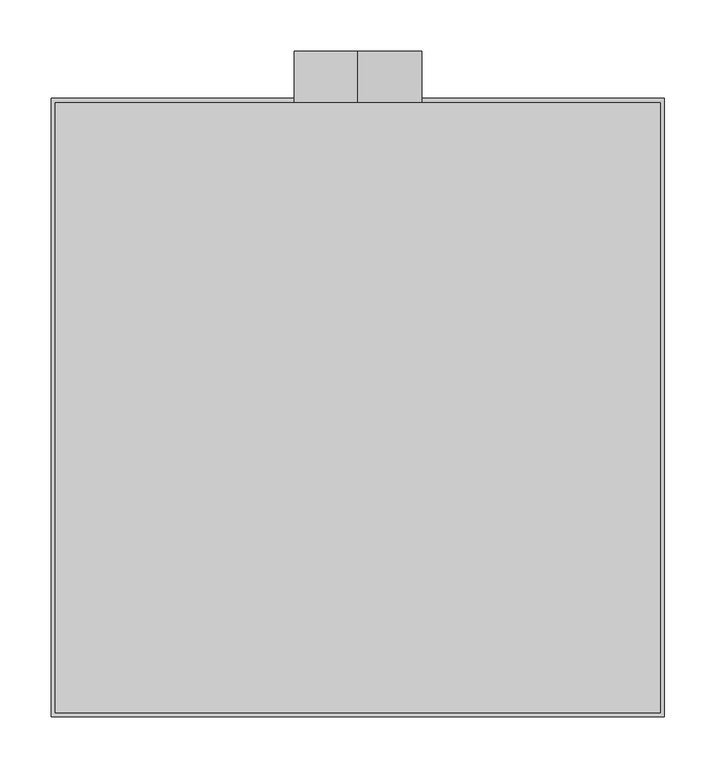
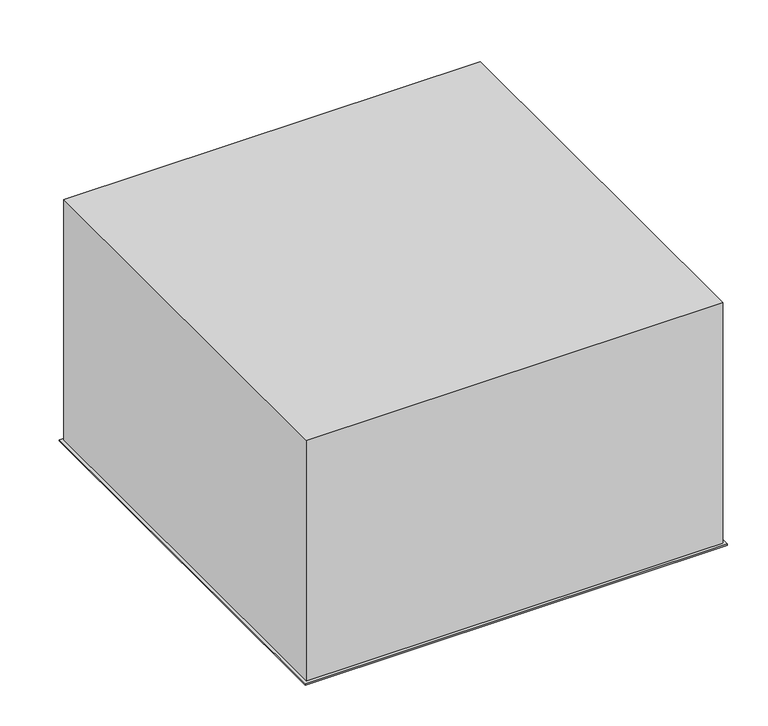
"""IFC4 building model written with IfcOpenShell, lengths in millimetres: air terminal geometry, EOL - plafonnier : EOL-P1-125-600x600."""

from ifc_helpers import new_model, si_unit, point, frame, frame_2d, origin, place, context, project, spatial, polyline, circle_curve, trimmed, segment, composite_curve, outline, extrude, source, transform, mapped, element, save
from ifc_brep_helpers import plane_surface, revolved_surface, advanced_brep


def air_terminal_0c244e15(model_context):
    return source(origin(), model_context, "Body", "SolidModel", [
        extrude(outline(composite_curve([segment(polyline([(546.8125856, 1.0), (546.8125856, 2.0025269)]), True, "CONTINUOUS"), segment(trimmed(circle_curve(frame_2d((544.7125856, 31.0266548)), 29.1), [point((546.8125856, 2.0025269))], [point((573.5, 26.77286))], True, "CARTESIAN"), True, "CONTINUOUS"), segment(polyline([(573.5, 26.77286), (573.5, 35.0), (574.5, 35.0), (574.5, 26.7)]), True, "CONTINUOUS"), segment(trimmed(circle_curve(frame_2d((544.7125856, 31.0266548)), 30.1), [point((574.5, 26.7))], [point((546.8125856, 1.0))], False, "CARTESIAN"), True, "CONTINUOUS")], self_intersect=False)), frame((-286.3125856, 0.0, 0.0), z_axis=(1.0, 0.0, 0.0), x_axis=(0.0, 1.0, 0.0)), (0.0, 0.0, 1.0), 572.6251712),
        extrude(outline(composite_curve([segment(polyline([(519.8125856, 1.0), (519.8125856, 2.0025269)]), True, "CONTINUOUS"), segment(trimmed(circle_curve(frame_2d((517.7125856, 31.0266548)), 29.1), [point((519.8125856, 2.0025269))], [point((546.5, 26.77286))], True, "CARTESIAN"), True, "CONTINUOUS"), segment(polyline([(546.5, 26.77286), (546.5, 35.0), (547.5, 35.0), (547.5, 26.7)]), True, "CONTINUOUS"), segment(trimmed(circle_curve(frame_2d((517.7125856, 31.0266548)), 30.1), [point((547.5, 26.7))], [point((519.8125856, 1.0))], False, "CARTESIAN"), True, "CONTINUOUS")], self_intersect=False)), frame((-286.3125856, 0.0, 0.0), z_axis=(1.0, 0.0, 0.0), x_axis=(0.0, 1.0, 0.0)), (0.0, 0.0, 1.0), 572.6251712),
        extrude(outline(composite_curve([segment(polyline([(492.8125856, 1.0), (492.8125856, 2.0025269)]), True, "CONTINUOUS"), segment(trimmed(circle_curve(frame_2d((490.7125856, 31.0266548)), 29.1), [point((492.8125856, 2.0025269))], [point((519.5, 26.77286))], True, "CARTESIAN"), True, "CONTINUOUS"), segment(polyline([(519.5, 26.77286), (519.5, 35.0), (520.5, 35.0), (520.5, 26.7)]), True, "CONTINUOUS"), segment(trimmed(circle_curve(frame_2d((490.7125856, 31.0266548)), 30.1), [point((520.5, 26.7))], [point((492.8125856, 1.0))], False, "CARTESIAN"), True, "CONTINUOUS")], self_intersect=False)), frame((-286.3125856, 0.0, 0.0), z_axis=(1.0, 0.0, 0.0), x_axis=(0.0, 1.0, 0.0)), (0.0, 0.0, 1.0), 572.6251712),
        extrude(outline(composite_curve([segment(polyline([(465.8125856, 1.0), (465.8125856, 2.0025269)]), True, "CONTINUOUS"), segment(trimmed(circle_curve(frame_2d((463.7125856, 31.0266548)), 29.1), [point((465.8125856, 2.0025269))], [point((492.5, 26.77286))], True, "CARTESIAN"), True, "CONTINUOUS"), segment(polyline([(492.5, 26.77286), (492.5, 35.0), (493.5, 35.0), (493.5, 26.7)]), True, "CONTINUOUS"), segment(trimmed(circle_curve(frame_2d((463.7125856, 31.0266548)), 30.1), [point((493.5, 26.7))], [point((465.8125856, 1.0))], False, "CARTESIAN"), True, "CONTINUOUS")], self_intersect=False)), frame((-286.3125856, 0.0, 0.0), z_axis=(1.0, 0.0, 0.0), x_axis=(0.0, 1.0, 0.0)), (0.0, 0.0, 1.0), 572.6251712),
        extrude(outline(composite_curve([segment(polyline([(438.8125856, 1.0), (438.8125856, 2.0025269)]), True, "CONTINUOUS"), segment(trimmed(circle_curve(frame_2d((436.7125856, 31.0266548)), 29.1), [point((438.8125856, 2.0025269))], [point((465.5, 26.77286))], True, "CARTESIAN"), True, "CONTINUOUS"), segment(polyline([(465.5, 26.77286), (465.5, 35.0), (466.5, 35.0), (466.5, 26.7)]), True, "CONTINUOUS"), segment(trimmed(circle_curve(frame_2d((436.7125856, 31.0266548)), 30.1), [point((466.5, 26.7))], [point((438.8125856, 1.0))], False, "CARTESIAN"), True, "CONTINUOUS")], self_intersect=False)), frame((-286.3125856, 0.0, 0.0), z_axis=(1.0, 0.0, 0.0), x_axis=(0.0, 1.0, 0.0)), (0.0, 0.0, 1.0), 572.6251712),
        extrude(outline(composite_curve([segment(polyline([(411.8125856, 1.0), (411.8125856, 2.0025269)]), True, "CONTINUOUS"), segment(trimmed(circle_curve(frame_2d((409.7125856, 31.0266548)), 29.1), [point((411.8125856, 2.0025269))], [point((438.5, 26.77286))], True, "CARTESIAN"), True, "CONTINUOUS"), segment(polyline([(438.5, 26.77286), (438.5, 35.0), (439.5, 35.0), (439.5, 26.7)]), True, "CONTINUOUS"), segment(trimmed(circle_curve(frame_2d((409.7125856, 31.0266548)), 30.1), [point((439.5, 26.7))], [point((411.8125856, 1.0))], False, "CARTESIAN"), True, "CONTINUOUS")], self_intersect=False)), frame((-286.3125856, 0.0, 0.0), z_axis=(1.0, 0.0, 0.0), x_axis=(0.0, 1.0, 0.0)), (0.0, 0.0, 1.0), 572.6251712),
        extrude(outline(composite_curve([segment(polyline([(384.8125856, 1.0), (384.8125856, 2.0025269)]), True, "CONTINUOUS"), segment(trimmed(circle_curve(frame_2d((382.7125856, 31.0266548)), 29.1), [point((384.8125856, 2.0025269))], [point((411.5, 26.77286))], True, "CARTESIAN"), True, "CONTINUOUS"), segment(polyline([(411.5, 26.77286), (411.5, 35.0), (412.5, 35.0), (412.5, 26.7)]), True, "CONTINUOUS"), segment(trimmed(circle_curve(frame_2d((382.7125856, 31.0266548)), 30.1), [point((412.5, 26.7))], [point((384.8125856, 1.0))], False, "CARTESIAN"), True, "CONTINUOUS")], self_intersect=False)), frame((-286.3125856, 0.0, 0.0), z_axis=(1.0, 0.0, 0.0), x_axis=(0.0, 1.0, 0.0)), (0.0, 0.0, 1.0), 572.6251712),
        extrude(outline(composite_curve([segment(polyline([(357.8125856, 1.0), (357.8125856, 2.0025269)]), True, "CONTINUOUS"), segment(trimmed(circle_curve(frame_2d((355.7125856, 31.0266548)), 29.1), [point((357.8125856, 2.0025269))], [point((384.5, 26.77286))], True, "CARTESIAN"), True, "CONTINUOUS"), segment(polyline([(384.5, 26.77286), (384.5, 35.0), (385.5, 35.0), (385.5, 26.7)]), True, "CONTINUOUS"), segment(trimmed(circle_curve(frame_2d((355.7125856, 31.0266548)), 30.1), [point((385.5, 26.7))], [point((357.8125856, 1.0))], False, "CARTESIAN"), True, "CONTINUOUS")], self_intersect=False)), frame((-286.3125856, 0.0, 0.0), z_axis=(1.0, 0.0, 0.0), x_axis=(0.0, 1.0, 0.0)), (0.0, 0.0, 1.0), 572.6251712),
        extrude(outline(composite_curve([segment(polyline([(330.8125856, 1.0), (330.8125856, 2.0025269)]), True, "CONTINUOUS"), segment(trimmed(circle_curve(frame_2d((328.7125856, 31.0266548)), 29.1), [point((330.8125856, 2.0025269))], [point((357.5, 26.77286))], True, "CARTESIAN"), True, "CONTINUOUS"), segment(polyline([(357.5, 26.77286), (357.5, 35.0), (358.5, 35.0), (358.5, 26.7)]), True, "CONTINUOUS"), segment(trimmed(circle_curve(frame_2d((328.7125856, 31.0266548)), 30.1), [point((358.5, 26.7))], [point((330.8125856, 1.0))], False, "CARTESIAN"), True, "CONTINUOUS")], self_intersect=False)), frame((-286.3125856, 0.0, 0.0), z_axis=(1.0, 0.0, 0.0), x_axis=(0.0, 1.0, 0.0)), (0.0, 0.0, 1.0), 572.6251712),
        extrude(outline(composite_curve([segment(polyline([(303.8125856, 1.0), (303.8125856, 2.0025269)]), True, "CONTINUOUS"), segment(trimmed(circle_curve(frame_2d((301.7125856, 31.0266548)), 29.1), [point((303.8125856, 2.0025269))], [point((330.5, 26.77286))], True, "CARTESIAN"), True, "CONTINUOUS"), segment(polyline([(330.5, 26.77286), (330.5, 35.0), (331.5, 35.0), (331.5, 26.7)]), True, "CONTINUOUS"), segment(trimmed(circle_curve(frame_2d((301.7125856, 31.0266548)), 30.1), [point((331.5, 26.7))], [point((303.8125856, 1.0))], False, "CARTESIAN"), True, "CONTINUOUS")], self_intersect=False)), frame((-286.3125856, 0.0, 0.0), z_axis=(1.0, 0.0, 0.0), x_axis=(0.0, 1.0, 0.0)), (0.0, 0.0, 1.0), 572.6251712),
        extrude(outline(composite_curve([segment(polyline([(276.8125856, 1.0), (276.8125856, 2.0025269)]), True, "CONTINUOUS"), segment(trimmed(circle_curve(frame_2d((274.7125856, 31.0266548)), 29.1), [point((276.8125856, 2.0025269))], [point((303.5, 26.77286))], True, "CARTESIAN"), True, "CONTINUOUS"), segment(polyline([(303.5, 26.77286), (303.5, 35.0), (304.5, 35.0), (304.5, 26.7)]), True, "CONTINUOUS"), segment(trimmed(circle_curve(frame_2d((274.7125856, 31.0266548)), 30.1), [point((304.5, 26.7))], [point((276.8125856, 1.0))], False, "CARTESIAN"), True, "CONTINUOUS")], self_intersect=False)), frame((-286.3125856, 0.0, 0.0), z_axis=(1.0, 0.0, 0.0), x_axis=(0.0, 1.0, 0.0)), (0.0, 0.0, 1.0), 572.6251712),
        extrude(outline(composite_curve([segment(polyline([(249.8125856, 1.0), (249.8125856, 2.0025269)]), True, "CONTINUOUS"), segment(trimmed(circle_curve(frame_2d((247.7125856, 31.0266548)), 29.1), [point((249.8125856, 2.0025269))], [point((276.5, 26.77286))], True, "CARTESIAN"), True, "CONTINUOUS"), segment(polyline([(276.5, 26.77286), (276.5, 35.0), (277.5, 35.0), (277.5, 26.7)]), True, "CONTINUOUS"), segment(trimmed(circle_curve(frame_2d((247.7125856, 31.0266548)), 30.1), [point((277.5, 26.7))], [point((249.8125856, 1.0))], False, "CARTESIAN"), True, "CONTINUOUS")], self_intersect=False)), frame((-286.3125856, 0.0, 0.0), z_axis=(1.0, 0.0, 0.0), x_axis=(0.0, 1.0, 0.0)), (0.0, 0.0, 1.0), 572.6251712),
        extrude(outline(composite_curve([segment(polyline([(222.8125856, 1.0), (222.8125856, 2.0025269)]), True, "CONTINUOUS"), segment(trimmed(circle_curve(frame_2d((220.7125856, 31.0266548)), 29.1), [point((222.8125856, 2.0025269))], [point((249.5, 26.77286))], True, "CARTESIAN"), True, "CONTINUOUS"), segment(polyline([(249.5, 26.77286), (249.5, 35.0), (250.5, 35.0), (250.5, 26.7)]), True, "CONTINUOUS"), segment(trimmed(circle_curve(frame_2d((220.7125856, 31.0266548)), 30.1), [point((250.5, 26.7))], [point((222.8125856, 1.0))], False, "CARTESIAN"), True, "CONTINUOUS")], self_intersect=False)), frame((-286.3125856, 0.0, 0.0), z_axis=(1.0, 0.0, 0.0), x_axis=(0.0, 1.0, 0.0)), (0.0, 0.0, 1.0), 572.6251712),
        extrude(outline(composite_curve([segment(polyline([(195.8125856, 1.0), (195.8125856, 2.0025269)]), True, "CONTINUOUS"), segment(trimmed(circle_curve(frame_2d((193.7125856, 31.0266548)), 29.1), [point((195.8125856, 2.0025269))], [point((222.5, 26.77286))], True, "CARTESIAN"), True, "CONTINUOUS"), segment(polyline([(222.5, 26.77286), (222.5, 35.0), (223.5, 35.0), (223.5, 26.7)]), True, "CONTINUOUS"), segment(trimmed(circle_curve(frame_2d((193.7125856, 31.0266548)), 30.1), [point((223.5, 26.7))], [point((195.8125856, 1.0))], False, "CARTESIAN"), True, "CONTINUOUS")], self_intersect=False)), frame((-286.3125856, 0.0, 0.0), z_axis=(1.0, 0.0, 0.0), x_axis=(0.0, 1.0, 0.0)), (0.0, 0.0, 1.0), 572.6251712),
        extrude(outline(composite_curve([segment(polyline([(168.8125856, 1.0), (168.8125856, 2.0025269)]), True, "CONTINUOUS"), segment(trimmed(circle_curve(frame_2d((166.7125856, 31.0266548)), 29.1), [point((168.8125856, 2.0025269))], [point((195.5, 26.77286))], True, "CARTESIAN"), True, "CONTINUOUS"), segment(polyline([(195.5, 26.77286), (195.5, 35.0), (196.5, 35.0), (196.5, 26.7)]), True, "CONTINUOUS"), segment(trimmed(circle_curve(frame_2d((166.7125856, 31.0266548)), 30.1), [point((196.5, 26.7))], [point((168.8125856, 1.0))], False, "CARTESIAN"), True, "CONTINUOUS")], self_intersect=False)), frame((-286.3125856, 0.0, 0.0), z_axis=(1.0, 0.0, 0.0), x_axis=(0.0, 1.0, 0.0)), (0.0, 0.0, 1.0), 572.6251712),
        extrude(outline(composite_curve([segment(polyline([(141.8125856, 1.0), (141.8125856, 2.0025269)]), True, "CONTINUOUS"), segment(trimmed(circle_curve(frame_2d((139.7125856, 31.0266548)), 29.1), [point((141.8125856, 2.0025269))], [point((168.5, 26.77286))], True, "CARTESIAN"), True, "CONTINUOUS"), segment(polyline([(168.5, 26.77286), (168.5, 35.0), (169.5, 35.0), (169.5, 26.7)]), True, "CONTINUOUS"), segment(trimmed(circle_curve(frame_2d((139.7125856, 31.0266548)), 30.1), [point((169.5, 26.7))], [point((141.8125856, 1.0))], False, "CARTESIAN"), True, "CONTINUOUS")], self_intersect=False)), frame((-286.3125856, 0.0, 0.0), z_axis=(1.0, 0.0, 0.0), x_axis=(0.0, 1.0, 0.0)), (0.0, 0.0, 1.0), 572.6251712),
        extrude(outline(composite_curve([segment(polyline([(114.8125856, 1.0), (114.8125856, 2.0025269)]), True, "CONTINUOUS"), segment(trimmed(circle_curve(frame_2d((112.7125856, 31.0266548)), 29.1), [point((114.8125856, 2.0025269))], [point((141.5, 26.77286))], True, "CARTESIAN"), True, "CONTINUOUS"), segment(polyline([(141.5, 26.77286), (141.5, 35.0), (142.5, 35.0), (142.5, 26.7)]), True, "CONTINUOUS"), segment(trimmed(circle_curve(frame_2d((112.7125856, 31.0266548)), 30.1), [point((142.5, 26.7))], [point((114.8125856, 1.0))], False, "CARTESIAN"), True, "CONTINUOUS")], self_intersect=False)), frame((-286.3125856, 0.0, 0.0), z_axis=(1.0, 0.0, 0.0), x_axis=(0.0, 1.0, 0.0)), (0.0, 0.0, 1.0), 572.6251712),
        extrude(outline(composite_curve([segment(polyline([(87.8125856, 1.0), (87.8125856, 2.0025269)]), True, "CONTINUOUS"), segment(trimmed(circle_curve(frame_2d((85.7125856, 31.0266548)), 29.1), [point((87.8125856, 2.0025269))], [point((114.5, 26.77286))], True, "CARTESIAN"), True, "CONTINUOUS"), segment(polyline([(114.5, 26.77286), (114.5, 35.0), (115.5, 35.0), (115.5, 26.7)]), True, "CONTINUOUS"), segment(trimmed(circle_curve(frame_2d((85.7125856, 31.0266548)), 30.1), [point((115.5, 26.7))], [point((87.8125856, 1.0))], False, "CARTESIAN"), True, "CONTINUOUS")], self_intersect=False)), frame((-286.3125856, 0.0, 0.0), z_axis=(1.0, 0.0, 0.0), x_axis=(0.0, 1.0, 0.0)), (0.0, 0.0, 1.0), 572.6251712),
        extrude(outline(composite_curve([segment(polyline([(60.8125856, 1.0), (60.8125856, 2.0025269)]), True, "CONTINUOUS"), segment(trimmed(circle_curve(frame_2d((58.7125856, 31.0266548)), 29.1), [point((60.8125856, 2.0025269))], [point((87.5, 26.77286))], True, "CARTESIAN"), True, "CONTINUOUS"), segment(polyline([(87.5, 26.77286), (87.5, 35.0), (88.5, 35.0), (88.5, 26.7)]), True, "CONTINUOUS"), segment(trimmed(circle_curve(frame_2d((58.7125856, 31.0266548)), 30.1), [point((88.5, 26.7))], [point((60.8125856, 1.0))], False, "CARTESIAN"), True, "CONTINUOUS")], self_intersect=False)), frame((-286.3125856, 0.0, 0.0), z_axis=(1.0, 0.0, 0.0), x_axis=(0.0, 1.0, 0.0)), (0.0, 0.0, 1.0), 572.6251712),
        extrude(outline(composite_curve([segment(polyline([(33.8125856, 1.0), (33.8125856, 2.0025269)]), True, "CONTINUOUS"), segment(trimmed(circle_curve(frame_2d((31.7125856, 31.0266548)), 29.1), [point((33.8125856, 2.0025269))], [point((60.5, 26.77286))], True, "CARTESIAN"), True, "CONTINUOUS"), segment(polyline([(60.5, 26.77286), (60.5, 35.0), (61.5, 35.0), (61.5, 26.7)]), True, "CONTINUOUS"), segment(trimmed(circle_curve(frame_2d((31.7125856, 31.0266548)), 30.1), [point((61.5, 26.7))], [point((33.8125856, 1.0))], False, "CARTESIAN"), True, "CONTINUOUS")], self_intersect=False)), frame((-286.3125856, 0.0, 0.0), z_axis=(1.0, 0.0, 0.0), x_axis=(0.0, 1.0, 0.0)), (0.0, 0.0, 1.0), 572.6251712),
        extrude(outline(composite_curve([segment(polyline([(6.8125856, 1.0), (6.8125856, 2.0025269)]), True, "CONTINUOUS"), segment(trimmed(circle_curve(frame_2d((4.7125856, 31.0266548)), 29.1), [point((6.8125856, 2.0025269))], [point((33.5, 26.77286))], True, "CARTESIAN"), True, "CONTINUOUS"), segment(polyline([(33.5, 26.77286), (33.5, 35.0), (34.5, 35.0), (34.5, 26.7)]), True, "CONTINUOUS"), segment(trimmed(circle_curve(frame_2d((4.7125856, 31.0266548)), 30.1), [point((34.5, 26.7))], [point((6.8125856, 1.0))], False, "CARTESIAN"), True, "CONTINUOUS")], self_intersect=False)), frame((-286.3125856, 0.0, 0.0), z_axis=(1.0, 0.0, 0.0), x_axis=(0.0, 1.0, 0.0)), (0.0, 0.0, 1.0), 572.6251712),
        extrude(outline(polyline([(299.0, 594.0), (299.0, -9.0), (-299.0, -9.0), (-299.0, 594.0), (299.0, 594.0)]), holes=[polyline([(290.0, 585.0), (-290.0, 585.0), (-290.0, 0.0), (290.0, 0.0), (290.0, 585.0)])]), frame((0.0, 0.0, -2.0), z_axis=(0.0, 0.0, 1.0), x_axis=(1.0, 0.0, 0.0)), (0.0, 0.0, 1.0), 2.0),
        extrude(outline(composite_curve([segment(trimmed(circle_curve(frame_2d((241.0, 0.0)), 62.5), [point((178.5, 0.0))], [point((303.5, 0.0))], False, "CARTESIAN"), True, "CONTINUOUS"), segment(trimmed(circle_curve(frame_2d((241.0, 0.0)), 62.5), [point((303.5, 0.0))], [point((178.5, 0.0))], False, "CARTESIAN"), True, "CONTINUOUS")], self_intersect=False), holes=[composite_curve([segment(trimmed(circle_curve(frame_2d((241.0, 0.0)), 61.5), [point((241.0, 61.5))], [point((241.0, -61.5))], True, "CARTESIAN"), True, "CONTINUOUS"), segment(trimmed(circle_curve(frame_2d((241.0, 0.0)), 61.5), [point((241.0, -61.5))], [point((241.0, 61.5))], True, "CARTESIAN"), True, "CONTINUOUS")], self_intersect=False)]), frame((0.0, 590.0, 0.0), z_axis=(0.0, 1.0, 0.0), x_axis=(0.0, 0.0, 1.0)), (0.0, 0.0, 1.0), 50.0),
        advanced_brep(
        [(295.0, 590.0, 361.0), (-295.0, 590.0, 361.0), (-295.0, -5.0, 361.0), (295.0, -5.0, 361.0), (295.0, 590.0, 0.0), (295.0, -5.0, 0.0), (-295.0, -5.0, 0.0), (-295.0, 590.0, 0.0), (290.0, 585.0, 0.0), (-290.0, 585.0, 0.0), (-290.0, 0.0, 0.0), (290.0, 0.0, 0.0), (-61.5, 590.0, 241.0), (61.5, 590.0, 241.0), (290.0, 585.0, 356.0), (290.0, 0.0, 356.0), (-290.0, 0.0, 356.0), (-290.0, 585.0, 356.0), (61.5, 585.0, 241.0), (-61.5, 585.0, 241.0)],
        [
            (0, 1),
            (1, 2),
            (2, 3),
            (3, 0),
            (4, 5),
            (5, 6),
            (6, 7),
            (7, 4),
            (8, 9),
            (9, 10),
            (10, 11),
            (11, 8),
            (0, 4),
            (7, 1),
            (12, 13, circle_curve(frame((0.0, 590.0, 241.0), z_axis=(0.0, -1.0, 0.0), x_axis=(1.0, 0.0, 0.0)), 61.5)),
            (13, 12, circle_curve(frame((0.0, 590.0, 241.0), z_axis=(0.0, -1.0, 0.0), x_axis=(1.0, 0.0, 0.0)), 61.5)),
            (6, 2),
            (5, 3),
            (14, 15),
            (15, 16),
            (16, 17),
            (17, 14),
            (17, 9),
            (8, 14),
            (18, 19, circle_curve(frame((0.0, 585.0, 241.0), z_axis=(0.0, 1.0, 0.0), x_axis=(1.0, 0.0, 0.0)), 61.5)),
            (19, 18, circle_curve(frame((0.0, 585.0, 241.0), z_axis=(0.0, 1.0, 0.0), x_axis=(1.0, 0.0, 0.0)), 61.5)),
            (16, 10),
            (15, 11),
            (12, 19),
            (18, 13),
        ],
        [
            plane_surface(frame((-295.0, 590.0, 361.0), z_axis=(0.0, 0.0, 1.0), x_axis=(-1.0, 0.0, 0.0))),
            plane_surface(frame((-295.0, 590.0, 0.0), z_axis=(0.0, 0.0, -1.0), x_axis=(1.0, 0.0, 0.0))),
            plane_surface(frame((295.0, 590.0, 361.0), z_axis=(0.0, 1.0, 0.0), x_axis=(0.0, 0.0, -1.0))),
            plane_surface(frame((-295.0, 590.0, 361.0), z_axis=(-1.0, 0.0, 0.0), x_axis=(0.0, 0.0, -1.0))),
            plane_surface(frame((-295.0, -5.0, 361.0), z_axis=(0.0, -1.0, 0.0), x_axis=(0.0, 0.0, -1.0))),
            plane_surface(frame((295.0, -5.0, 361.0), z_axis=(1.0, 0.0, 0.0), x_axis=(0.0, 0.0, -1.0))),
            plane_surface(frame((-290.0, 585.0, 356.0), z_axis=(0.0, 0.0, -1.0), x_axis=(-1.0, 0.0, 0.0))),
            plane_surface(frame((290.0, 585.0, 356.0), z_axis=(0.0, -1.0, 0.0), x_axis=(0.0, 0.0, -1.0))),
            plane_surface(frame((-290.0, 585.0, 356.0), z_axis=(1.0, 0.0, 0.0), x_axis=(0.0, 0.0, -1.0))),
            plane_surface(frame((-290.0, 0.0, 356.0), z_axis=(0.0, 1.0, 0.0), x_axis=(0.0, 0.0, -1.0))),
            plane_surface(frame((290.0, 0.0, 356.0), z_axis=(-1.0, 0.0, 0.0), x_axis=(0.0, 0.0, -1.0))),
            revolved_surface(polyline([(61.5, 585.0, 241.0), (61.5, 590.0, 241.0)]), (0.0, 640.0, 241.0), (0.0, -1.0, 0.0)),
        ],
        [
            (0, [[1, 2, 3, 4]]),
            (1, [[5, 6, 7, 8], [9, 10, 11, 12]]),
            (2, [[-1, 13, -8, 14], [15, 16]]),
            (3, [[-2, -14, -7, 17]]),
            (4, [[-3, -17, -6, 18]]),
            (5, [[-4, -18, -5, -13]]),
            (6, [[19, 20, 21, 22]]),
            (7, [[-22, 23, -9, 24], [25, 26]]),
            (8, [[-21, 27, -10, -23]]),
            (9, [[-20, 28, -11, -27]]),
            (10, [[-19, -24, -12, -28]]),
            (11, [[29, -25, 30, -15]]),
            (11, [[-29, -16, -30, -26]]),
        ],
    ),
    ])


if __name__ == "__main__":
    model = new_model("IFC4")
    model_context = context("Model", 3, world=origin())
    ifc_project = project(units=[si_unit("LENGTHUNIT", "METRE", prefix="MILLI")], contexts=[model_context])
    site = spatial("IfcSite", under=ifc_project)
    building = spatial("IfcBuilding", under=site)
    placement = place(None, origin())
    air_terminal_shape = air_terminal_0c244e15(model_context)
    element("IfcAirTerminal", 1, ObjectType="EOL - plafonnier : EOL-P1-125-600x600", at=placement, inside=building, context=model_context, shape_type="MappedRepresentation", body=[
        mapped(air_terminal_shape, transform((0.0, 0.0, 0.0), x_axis=(1.0, 0.0, 0.0), y_axis=(0.0, 1.0, 0.0), z_axis=(0.0, 0.0, 1.0))),
    ])
    save(model, "model.ifc")
